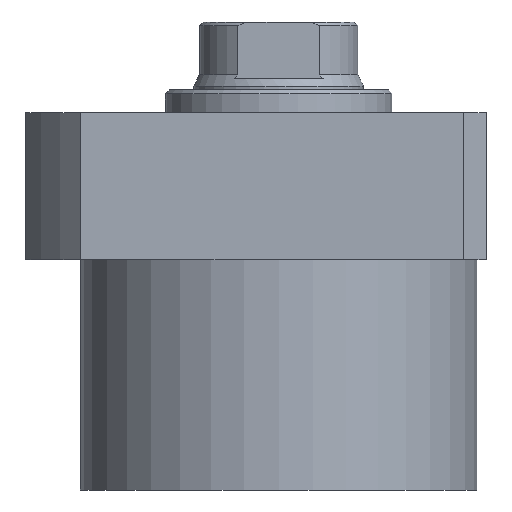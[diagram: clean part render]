
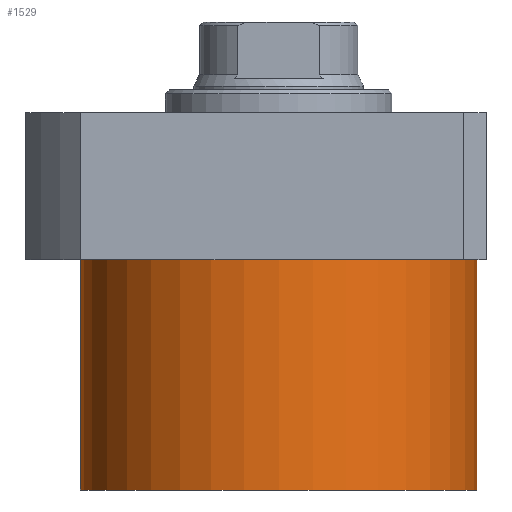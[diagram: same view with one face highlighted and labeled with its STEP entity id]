
A CAD part, front view. The second image highlights one B-rep face of the part: STEP entity #1529.
In plain terms, the highlighted cylindrical face has radius 52.5 mm (diameter 105 mm), a partial arc.
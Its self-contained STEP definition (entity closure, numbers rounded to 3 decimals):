
#1 = VERTEX_POINT ( 'NONE', #1066 ) ;
#22 = DIRECTION ( 'NONE',  ( 0., 0., -1. ) ) ;
#72 = EDGE_LOOP ( 'NONE', ( #1834, #743, #952, #704 ) ) ;
#110 = VERTEX_POINT ( 'NONE', #322 ) ;
#218 = CARTESIAN_POINT ( 'NONE',  ( 0., 0., -80.5 ) ) ;
#252 = EDGE_CURVE ( 'NONE', #433, #110, #926, .T. ) ;
#322 = CARTESIAN_POINT ( 'NONE',  ( -52.5, 0., -80.5 ) ) ;
#334 = AXIS2_PLACEMENT_3D ( 'NONE', #480, #1231, #1670 ) ;
#433 = VERTEX_POINT ( 'NONE', #891 ) ;
#438 = AXIS2_PLACEMENT_3D ( 'NONE', #911, #22, #1365 ) ;
#452 = CARTESIAN_POINT ( 'NONE',  ( -52.5, 0., -80.5 ) ) ;
#465 = CARTESIAN_POINT ( 'NONE',  ( 52.5, 0., -19.5 ) ) ;
#469 = VECTOR ( 'NONE', #1822, 1000. ) ;
#480 = CARTESIAN_POINT ( 'NONE',  ( 0., 0., -80.5 ) ) ;
#544 = DIRECTION ( 'NONE',  ( 0., 0., 1. ) ) ;
#704 = ORIENTED_EDGE ( 'NONE', *, *, #1010, .T. ) ;
#718 = FACE_OUTER_BOUND ( 'NONE', #72, .T. ) ;
#743 = ORIENTED_EDGE ( 'NONE', *, *, #252, .F. ) ;
#838 = CIRCLE ( 'NONE', #438, 52.5 ) ;
#891 = CARTESIAN_POINT ( 'NONE',  ( 52.5, 0., -80.5 ) ) ;
#911 = CARTESIAN_POINT ( 'NONE',  ( 0., 0., -19.5 ) ) ;
#924 = LINE ( 'NONE', #452, #469 ) ;
#926 = CIRCLE ( 'NONE', #1527, 52.5 ) ;
#952 = ORIENTED_EDGE ( 'NONE', *, *, #1210, .T. ) ;
#961 = EDGE_CURVE ( 'NONE', #110, #1, #924, .T. ) ;
#982 = DIRECTION ( 'NONE',  ( -1., 0., 0. ) ) ;
#1005 = VERTEX_POINT ( 'NONE', #465 ) ;
#1010 = EDGE_CURVE ( 'NONE', #1005, #1, #838, .T. ) ;
#1066 = CARTESIAN_POINT ( 'NONE',  ( -52.5, 0., -19.5 ) ) ;
#1210 = EDGE_CURVE ( 'NONE', #433, #1005, #1551, .T. ) ;
#1231 = DIRECTION ( 'NONE',  ( 0., 0., 1. ) ) ;
#1365 = DIRECTION ( 'NONE',  ( 1., 0., 0. ) ) ;
#1442 = CARTESIAN_POINT ( 'NONE',  ( 52.5, 0., -80.5 ) ) ;
#1527 = AXIS2_PLACEMENT_3D ( 'NONE', #218, #1562, #982 ) ;
#1529 = ADVANCED_FACE ( 'NONE', ( #718 ), #1773, .T. ) ;
#1551 = LINE ( 'NONE', #1442, #1795 ) ;
#1562 = DIRECTION ( 'NONE',  ( 0., 0., -1. ) ) ;
#1670 = DIRECTION ( 'NONE',  ( 1., 0., 0. ) ) ;
#1773 = CYLINDRICAL_SURFACE ( 'NONE', #334, 52.5 ) ;
#1795 = VECTOR ( 'NONE', #544, 1000. ) ;
#1822 = DIRECTION ( 'NONE',  ( 0., 0., 1. ) ) ;
#1834 = ORIENTED_EDGE ( 'NONE', *, *, #961, .F. ) ;
